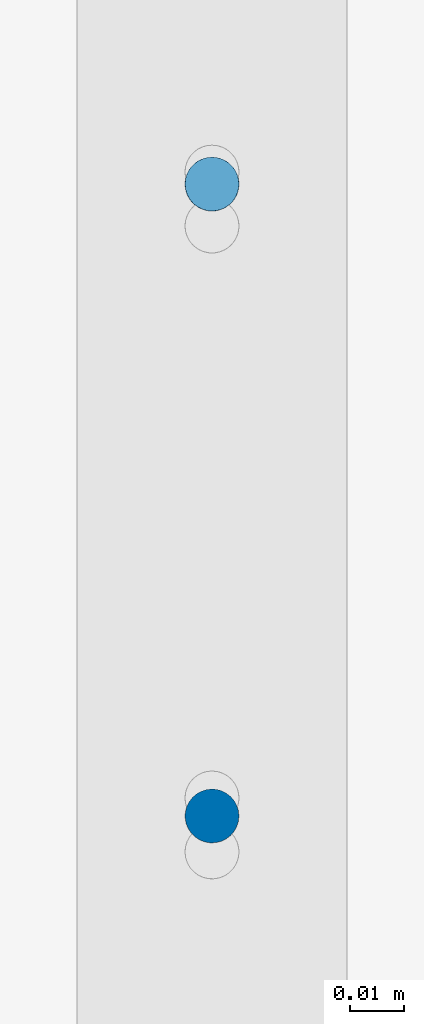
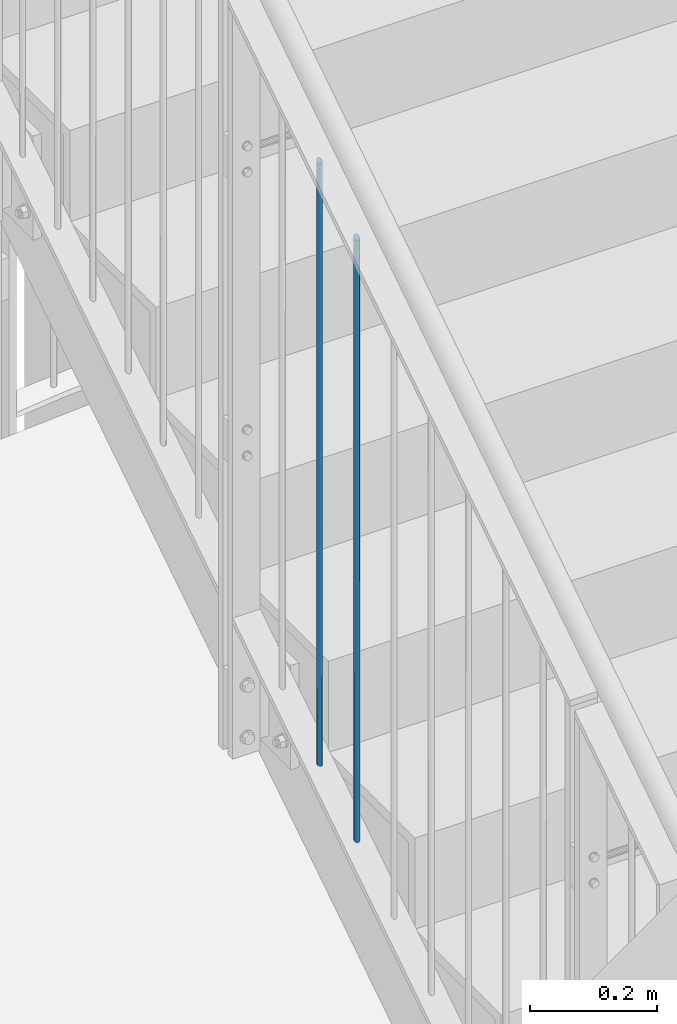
# One storey, part 11 of 296: 2 columns.
"""IFC2X3 building model written with IfcOpenShell, lengths in millimetres."""

from ifc_helpers import new_model, entity, si_unit, converted_unit, frame, origin, origin_with_axes, origin_2d, place, context, project, spatial, circle, extrude, clip, halfspace, material, element, save


model = new_model("IFC2X3")

# Units and contexts
model_context = context("Model", 3, precision=1e-09, world=origin_with_axes())
ifc_project = project(units=[si_unit("LENGTHUNIT", "METRE", prefix="MILLI"), si_unit("AREAUNIT", "SQUARE_METRE"), si_unit("VOLUMEUNIT", "CUBIC_METRE"), converted_unit("PLANEANGLEUNIT", "DEGREE", entity("IfcPlaneAngleMeasure", 0.01745329), si_unit("PLANEANGLEUNIT", "RADIAN"), dimensions=[0, 0, 0, 0, 0, 0, 0])], contexts=[model_context])

# Site, building, storey
site_placement = place(None, origin_with_axes())
site = spatial("IfcSite", under=ifc_project, at=site_placement, Name="TZD-S?d | Treppenhausgel?nder", CompositionType="ELEMENT")
building_placement = place(site_placement, origin_with_axes())
building = spatial("IfcBuilding", under=site, at=building_placement, Name="Struktur 1", CompositionType="ELEMENT")
storey_placement = place(building_placement, origin_with_axes())
storey = spatial("IfcBuildingStorey", under=building, at=storey_placement, Name="Default Storey", CompositionType="ELEMENT", Elevation=0.0)

# Columns
ifc_material = material(Name="S235JR")
column_1_placement = place(None, frame((-45.0, -2621.944444, 5988.672114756), z_axis=(0.0, 0.0, 1.0), x_axis=(0.0, 1.0, 0.0)))
element("IfcColumn", 1, at=column_1_placement, inside=storey, material=ifc_material, Name="-", ObjectType="-", context=model_context, shape_type="Clipping", body=[
    clip(clip(extrude(circle(Radius=5.0, at=origin_2d()), origin(), (0.0, 0.0, 1.0), 1184.929585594), halfspace(frame((-883.642936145, -45.0, -555.80880787), z_axis=(-0.542183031, 0.0, 0.840260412), x_axis=(0.0, -1.0, 0.0)), True)), halfspace(frame((-1410.376617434, -45.0, 260.508624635), z_axis=(0.542183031, 0.0, -0.840260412), x_axis=(0.0, 1.0, 0.0)), True)),
])
column_2_placement = place(None, frame((-45.0, -2739.166666, 5913.033778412), z_axis=(0.0, 0.0, 1.0), x_axis=(0.0, 1.0, 0.0)))
element("IfcColumn", 2, at=column_2_placement, inside=storey, material=ifc_material, Name="-", ObjectType="-", context=model_context, shape_type="Clipping", body=[
    clip(clip(extrude(circle(Radius=5.0, at=origin_2d()), origin(), (0.0, 0.0, 1.0), 1184.929585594), halfspace(frame((-766.420714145, -45.0, -480.170471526), z_axis=(-0.542183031, 0.0, 0.840260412), x_axis=(0.0, -1.0, 0.0)), True)), halfspace(frame((-1293.154395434, -45.0, 336.146960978), z_axis=(0.542183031, 0.0, -0.840260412), x_axis=(0.0, 1.0, 0.0)), True)),
])

save(model, "model.ifc")
